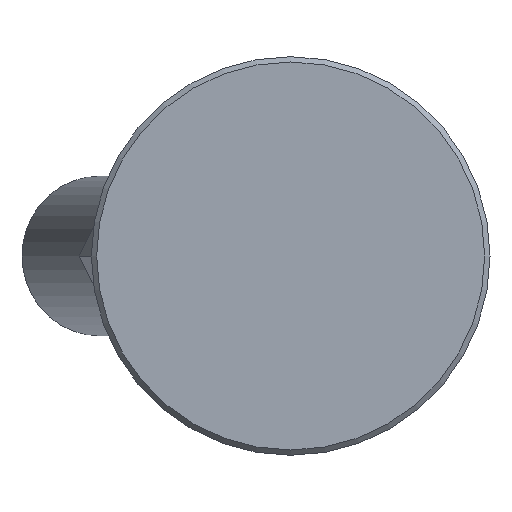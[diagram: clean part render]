
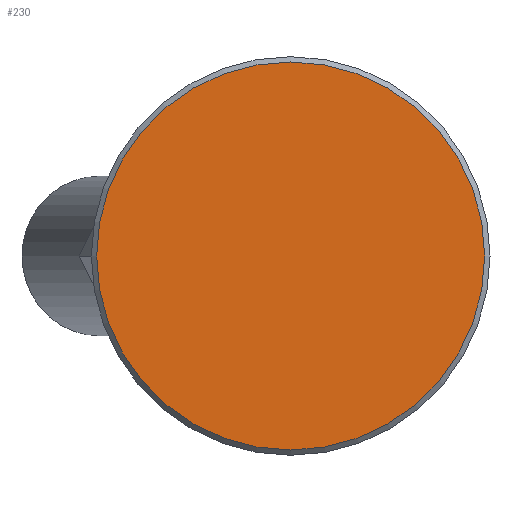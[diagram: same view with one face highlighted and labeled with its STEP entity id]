
A CAD part, front view. The second image highlights one B-rep face of the part: STEP entity #230.
In plain terms, the highlighted planar face has unit normal (0, -1, 0).
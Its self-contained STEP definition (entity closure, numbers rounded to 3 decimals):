
#230 = ADVANCED_FACE( '', ( #441 ), #442, .F. );
#441 = FACE_OUTER_BOUND( '', #637, .T. );
#442 = PLANE( '', #638 );
#637 = EDGE_LOOP( '', ( #1019 ) );
#638 = AXIS2_PLACEMENT_3D( '', #1020, #1021, #1022 );
#1019 = ORIENTED_EDGE( '', *, *, #1177, .T. );
#1020 = CARTESIAN_POINT( '', ( 29.2, 0., 0. ) );
#1021 = DIRECTION( '', ( 0., 1., 0. ) );
#1022 = DIRECTION( '', ( 0., 0., 1. ) );
#1177 = EDGE_CURVE( '', #1384, #1384, #1385, .T. );
#1384 = VERTEX_POINT( '', #1796 );
#1385 = CIRCLE( '', #1797, 29.2 );
#1796 = CARTESIAN_POINT( '', ( 0., 0., -29.2 ) );
#1797 = AXIS2_PLACEMENT_3D( '', #2097, #2098, #2099 );
#2097 = CARTESIAN_POINT( '', ( 0., 0., 0. ) );
#2098 = DIRECTION( '', ( 0., -1., 0. ) );
#2099 = DIRECTION( '', ( 0., 0., -1. ) );
